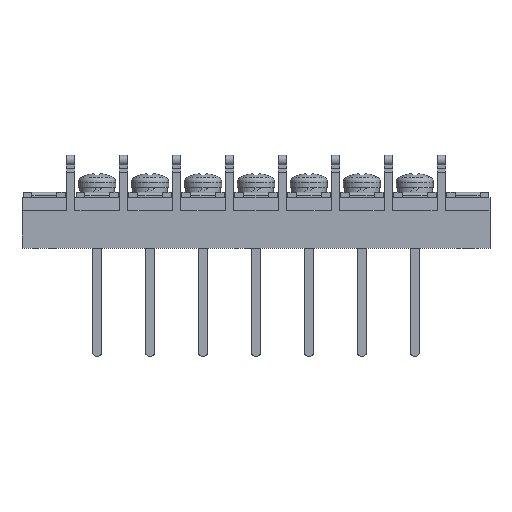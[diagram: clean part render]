
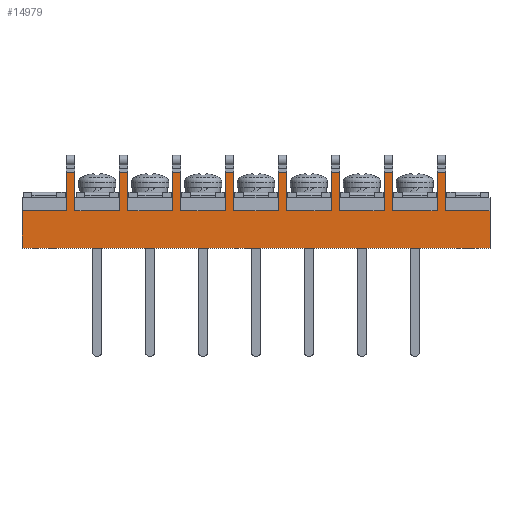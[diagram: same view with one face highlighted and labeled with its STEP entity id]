
A CAD part, top view. The second image highlights one B-rep face of the part: STEP entity #14979.
In plain terms, the highlighted planar face has unit normal (0, 0, 1).
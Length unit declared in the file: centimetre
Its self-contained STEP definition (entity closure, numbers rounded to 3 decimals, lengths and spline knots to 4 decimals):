
#688=VECTOR('',#16646,1.);
#719=VECTOR('',#16682,1.);
#770=VECTOR('',#16749,1.);
#771=VECTOR('',#16751,1.);
#772=VECTOR('',#16752,1.);
#773=VECTOR('',#16753,1.);
#774=VECTOR('',#16754,1.);
#775=VECTOR('',#16755,1.);
#776=VECTOR('',#16756,1.);
#777=VECTOR('',#16757,1.);
#778=VECTOR('',#16758,1.);
#779=VECTOR('',#16759,1.);
#780=VECTOR('',#16760,1.);
#781=VECTOR('',#16761,1.);
#782=VECTOR('',#16762,1.);
#783=VECTOR('',#16763,1.);
#784=VECTOR('',#16764,1.);
#785=VECTOR('',#16765,1.);
#786=VECTOR('',#16766,1.);
#787=VECTOR('',#16767,1.);
#788=VECTOR('',#16768,1.);
#789=VECTOR('',#16769,1.);
#790=VECTOR('',#16770,1.);
#791=VECTOR('',#16771,1.);
#792=VECTOR('',#16772,1.);
#793=VECTOR('',#16773,1.);
#794=VECTOR('',#16774,1.);
#795=VECTOR('',#16775,1.);
#796=VECTOR('',#16776,1.);
#797=VECTOR('',#16777,1.);
#798=VECTOR('',#16778,1.);
#799=VECTOR('',#16779,1.);
#800=VECTOR('',#16780,1.);
#801=VECTOR('',#16781,1.);
#802=VECTOR('',#16782,1.);
#803=VECTOR('',#16783,1.);
#2428=LINE('',#20002,#688);
#2459=LINE('',#20069,#719);
#2510=LINE('',#20174,#770);
#2511=LINE('',#20176,#771);
#2512=LINE('',#20178,#772);
#2513=LINE('',#20180,#773);
#2514=LINE('',#20182,#774);
#2515=LINE('',#20184,#775);
#2516=LINE('',#20186,#776);
#2517=LINE('',#20188,#777);
#2518=LINE('',#20190,#778);
#2519=LINE('',#20192,#779);
#2520=LINE('',#20194,#780);
#2521=LINE('',#20196,#781);
#2522=LINE('',#20198,#782);
#2523=LINE('',#20200,#783);
#2524=LINE('',#20202,#784);
#2525=LINE('',#20204,#785);
#2526=LINE('',#20206,#786);
#2527=LINE('',#20208,#787);
#2528=LINE('',#20210,#788);
#2529=LINE('',#20212,#789);
#2530=LINE('',#20214,#790);
#2531=LINE('',#20216,#791);
#2532=LINE('',#20218,#792);
#2533=LINE('',#20220,#793);
#2534=LINE('',#20222,#794);
#2535=LINE('',#20224,#795);
#2536=LINE('',#20226,#796);
#2537=LINE('',#20227,#797);
#2538=LINE('',#20229,#798);
#2539=LINE('',#20231,#799);
#2540=LINE('',#20233,#800);
#2541=LINE('',#20235,#801);
#2542=LINE('',#20237,#802);
#2543=LINE('',#20239,#803);
#4220=VERTEX_POINT('',#20001);
#4221=VERTEX_POINT('',#20003);
#4253=VERTEX_POINT('',#20068);
#4254=VERTEX_POINT('',#20070);
#4295=VERTEX_POINT('',#20173);
#4296=VERTEX_POINT('',#20177);
#4297=VERTEX_POINT('',#20179);
#4298=VERTEX_POINT('',#20181);
#4299=VERTEX_POINT('',#20183);
#4300=VERTEX_POINT('',#20185);
#4301=VERTEX_POINT('',#20187);
#4302=VERTEX_POINT('',#20189);
#4303=VERTEX_POINT('',#20191);
#4304=VERTEX_POINT('',#20193);
#4305=VERTEX_POINT('',#20195);
#4306=VERTEX_POINT('',#20197);
#4307=VERTEX_POINT('',#20199);
#4308=VERTEX_POINT('',#20201);
#4309=VERTEX_POINT('',#20203);
#4310=VERTEX_POINT('',#20205);
#4311=VERTEX_POINT('',#20207);
#4312=VERTEX_POINT('',#20209);
#4313=VERTEX_POINT('',#20211);
#4314=VERTEX_POINT('',#20213);
#4315=VERTEX_POINT('',#20215);
#4316=VERTEX_POINT('',#20217);
#4317=VERTEX_POINT('',#20219);
#4318=VERTEX_POINT('',#20221);
#4319=VERTEX_POINT('',#20223);
#4320=VERTEX_POINT('',#20225);
#4321=VERTEX_POINT('',#20228);
#4322=VERTEX_POINT('',#20230);
#4323=VERTEX_POINT('',#20232);
#4324=VERTEX_POINT('',#20234);
#4325=VERTEX_POINT('',#20236);
#4326=VERTEX_POINT('',#20238);
#6079=EDGE_CURVE('',#4221,#4220,#2428,.T.);
#6112=EDGE_CURVE('',#4254,#4253,#2459,.T.);
#6165=EDGE_CURVE('',#4295,#4220,#2510,.T.);
#6166=EDGE_CURVE('',#4253,#4296,#2511,.T.);
#6167=EDGE_CURVE('',#4297,#4296,#2512,.T.);
#6168=EDGE_CURVE('',#4297,#4298,#2513,.T.);
#6169=EDGE_CURVE('',#4299,#4298,#2514,.T.);
#6170=EDGE_CURVE('',#4299,#4300,#2515,.T.);
#6171=EDGE_CURVE('',#4301,#4300,#2516,.T.);
#6172=EDGE_CURVE('',#4301,#4302,#2517,.T.);
#6173=EDGE_CURVE('',#4303,#4302,#2518,.T.);
#6174=EDGE_CURVE('',#4303,#4304,#2519,.T.);
#6175=EDGE_CURVE('',#4305,#4304,#2520,.T.);
#6176=EDGE_CURVE('',#4305,#4306,#2521,.T.);
#6177=EDGE_CURVE('',#4307,#4306,#2522,.T.);
#6178=EDGE_CURVE('',#4307,#4308,#2523,.T.);
#6179=EDGE_CURVE('',#4309,#4308,#2524,.T.);
#6180=EDGE_CURVE('',#4309,#4310,#2525,.T.);
#6181=EDGE_CURVE('',#4311,#4310,#2526,.T.);
#6182=EDGE_CURVE('',#4311,#4312,#2527,.T.);
#6183=EDGE_CURVE('',#4313,#4312,#2528,.T.);
#6184=EDGE_CURVE('',#4313,#4314,#2529,.T.);
#6185=EDGE_CURVE('',#4315,#4314,#2530,.T.);
#6186=EDGE_CURVE('',#4315,#4316,#2531,.T.);
#6187=EDGE_CURVE('',#4317,#4316,#2532,.T.);
#6188=EDGE_CURVE('',#4317,#4318,#2533,.T.);
#6189=EDGE_CURVE('',#4319,#4318,#2534,.T.);
#6190=EDGE_CURVE('',#4319,#4320,#2535,.T.);
#6191=EDGE_CURVE('',#4221,#4320,#2536,.T.);
#6192=EDGE_CURVE('',#4295,#4321,#2537,.T.);
#6193=EDGE_CURVE('',#4322,#4321,#2538,.T.);
#6194=EDGE_CURVE('',#4322,#4323,#2539,.T.);
#6195=EDGE_CURVE('',#4324,#4323,#2540,.T.);
#6196=EDGE_CURVE('',#4324,#4325,#2541,.T.);
#6197=EDGE_CURVE('',#4326,#4325,#2542,.T.);
#6198=EDGE_CURVE('',#4326,#4254,#2543,.T.);
#8580=ORIENTED_EDGE('',*,*,#6112,.T.);
#8581=ORIENTED_EDGE('',*,*,#6166,.T.);
#8582=ORIENTED_EDGE('',*,*,#6167,.F.);
#8583=ORIENTED_EDGE('',*,*,#6168,.T.);
#8584=ORIENTED_EDGE('',*,*,#6169,.F.);
#8585=ORIENTED_EDGE('',*,*,#6170,.T.);
#8586=ORIENTED_EDGE('',*,*,#6171,.F.);
#8587=ORIENTED_EDGE('',*,*,#6172,.T.);
#8588=ORIENTED_EDGE('',*,*,#6173,.F.);
#8589=ORIENTED_EDGE('',*,*,#6174,.T.);
#8590=ORIENTED_EDGE('',*,*,#6175,.F.);
#8591=ORIENTED_EDGE('',*,*,#6176,.T.);
#8592=ORIENTED_EDGE('',*,*,#6177,.F.);
#8593=ORIENTED_EDGE('',*,*,#6178,.T.);
#8594=ORIENTED_EDGE('',*,*,#6179,.F.);
#8595=ORIENTED_EDGE('',*,*,#6180,.T.);
#8596=ORIENTED_EDGE('',*,*,#6181,.F.);
#8597=ORIENTED_EDGE('',*,*,#6182,.T.);
#8598=ORIENTED_EDGE('',*,*,#6183,.F.);
#8599=ORIENTED_EDGE('',*,*,#6184,.T.);
#8600=ORIENTED_EDGE('',*,*,#6185,.F.);
#8601=ORIENTED_EDGE('',*,*,#6186,.T.);
#8602=ORIENTED_EDGE('',*,*,#6187,.F.);
#8603=ORIENTED_EDGE('',*,*,#6188,.T.);
#8604=ORIENTED_EDGE('',*,*,#6189,.F.);
#8605=ORIENTED_EDGE('',*,*,#6190,.T.);
#8606=ORIENTED_EDGE('',*,*,#6191,.F.);
#8607=ORIENTED_EDGE('',*,*,#6079,.T.);
#8608=ORIENTED_EDGE('',*,*,#6165,.F.);
#8609=ORIENTED_EDGE('',*,*,#6192,.T.);
#8610=ORIENTED_EDGE('',*,*,#6193,.F.);
#8611=ORIENTED_EDGE('',*,*,#6194,.T.);
#8612=ORIENTED_EDGE('',*,*,#6195,.F.);
#8613=ORIENTED_EDGE('',*,*,#6196,.T.);
#8614=ORIENTED_EDGE('',*,*,#6197,.F.);
#8615=ORIENTED_EDGE('',*,*,#6198,.T.);
#13024=EDGE_LOOP('',(#8580,#8581,#8582,#8583,#8584,#8585,#8586,#8587,#8588,
#8589,#8590,#8591,#8592,#8593,#8594,#8595,#8596,#8597,#8598,#8599,#8600,
#8601,#8602,#8603,#8604,#8605,#8606,#8607,#8608,#8609,#8610,#8611,#8612,
#8613,#8614,#8615));
#14008=FACE_BOUND('',#13024,.T.);
#14979=ADVANCED_FACE('',(#14008),#15851,.T.);
#15851=PLANE('',#25777);
#16646=DIRECTION('',(0.,1.,0.));
#16682=DIRECTION('',(1.,0.,0.));
#16749=DIRECTION('',(1.,0.,0.));
#16750=DIRECTION('',(0.,0.,1.));
#16751=DIRECTION('',(0.,1.,0.));
#16752=DIRECTION('',(1.,0.,0.));
#16753=DIRECTION('',(0.,1.,0.));
#16754=DIRECTION('',(1.,0.,0.));
#16755=DIRECTION('',(0.,-1.,0.));
#16756=DIRECTION('',(1.,0.,0.));
#16757=DIRECTION('',(0.,1.,0.));
#16758=DIRECTION('',(1.,0.,0.));
#16759=DIRECTION('',(0.,-1.,0.));
#16760=DIRECTION('',(1.,0.,0.));
#16761=DIRECTION('',(0.,1.,0.));
#16762=DIRECTION('',(1.,0.,0.));
#16763=DIRECTION('',(0.,-1.,0.));
#16764=DIRECTION('',(1.,0.,0.));
#16765=DIRECTION('',(0.,1.,0.));
#16766=DIRECTION('',(1.,0.,0.));
#16767=DIRECTION('',(0.,-1.,0.));
#16768=DIRECTION('',(1.,0.,0.));
#16769=DIRECTION('',(0.,1.,0.));
#16770=DIRECTION('',(1.,0.,0.));
#16771=DIRECTION('',(0.,-1.,0.));
#16772=DIRECTION('',(1.,0.,0.));
#16773=DIRECTION('',(0.,1.,0.));
#16774=DIRECTION('',(1.,0.,0.));
#16775=DIRECTION('',(0.,-1.,0.));
#16776=DIRECTION('',(1.,0.,0.));
#16777=DIRECTION('',(0.,-1.,0.));
#16778=DIRECTION('',(1.,0.,0.));
#16779=DIRECTION('',(0.,1.,0.));
#16780=DIRECTION('',(1.,0.,0.));
#16781=DIRECTION('',(0.,-1.,0.));
#16782=DIRECTION('',(1.,0.,0.));
#16783=DIRECTION('',(0.,-1.,0.));
#20001=CARTESIAN_POINT('',(0.16,1.42,0.65));
#20002=CARTESIAN_POINT('',(0.16,1.42,0.65));
#20003=CARTESIAN_POINT('',(0.16,0.7,0.65));
#20068=CARTESIAN_POINT('',(7.,0.,0.65));
#20069=CARTESIAN_POINT('',(0.,0.,0.65));
#20070=CARTESIAN_POINT('',(-1.84,0.,0.65));
#20173=CARTESIAN_POINT('',(0.,1.42,0.65));
#20174=CARTESIAN_POINT('',(0.,1.42,0.65));
#20175=CARTESIAN_POINT('',(0.,0.71,0.65));
#20176=CARTESIAN_POINT('',(7.,0.7,0.65));
#20177=CARTESIAN_POINT('',(7.,0.7,0.65));
#20178=CARTESIAN_POINT('',(6.16,0.7,0.65));
#20179=CARTESIAN_POINT('',(6.16,0.7,0.65));
#20180=CARTESIAN_POINT('',(6.16,1.42,0.65));
#20181=CARTESIAN_POINT('',(6.16,1.42,0.65));
#20182=CARTESIAN_POINT('',(6.,1.42,0.65));
#20183=CARTESIAN_POINT('',(6.,1.42,0.65));
#20184=CARTESIAN_POINT('',(6.,1.42,0.65));
#20185=CARTESIAN_POINT('',(6.,0.7,0.65));
#20186=CARTESIAN_POINT('',(5.16,0.7,0.65));
#20187=CARTESIAN_POINT('',(5.16,0.7,0.65));
#20188=CARTESIAN_POINT('',(5.16,1.42,0.65));
#20189=CARTESIAN_POINT('',(5.16,1.42,0.65));
#20190=CARTESIAN_POINT('',(5.,1.42,0.65));
#20191=CARTESIAN_POINT('',(5.,1.42,0.65));
#20192=CARTESIAN_POINT('',(5.,1.42,0.65));
#20193=CARTESIAN_POINT('',(5.,0.7,0.65));
#20194=CARTESIAN_POINT('',(4.16,0.7,0.65));
#20195=CARTESIAN_POINT('',(4.16,0.7,0.65));
#20196=CARTESIAN_POINT('',(4.16,1.42,0.65));
#20197=CARTESIAN_POINT('',(4.16,1.42,0.65));
#20198=CARTESIAN_POINT('',(4.,1.42,0.65));
#20199=CARTESIAN_POINT('',(4.,1.42,0.65));
#20200=CARTESIAN_POINT('',(4.,1.42,0.65));
#20201=CARTESIAN_POINT('',(4.,0.7,0.65));
#20202=CARTESIAN_POINT('',(3.16,0.7,0.65));
#20203=CARTESIAN_POINT('',(3.16,0.7,0.65));
#20204=CARTESIAN_POINT('',(3.16,1.42,0.65));
#20205=CARTESIAN_POINT('',(3.16,1.42,0.65));
#20206=CARTESIAN_POINT('',(3.,1.42,0.65));
#20207=CARTESIAN_POINT('',(3.,1.42,0.65));
#20208=CARTESIAN_POINT('',(3.,1.42,0.65));
#20209=CARTESIAN_POINT('',(3.,0.7,0.65));
#20210=CARTESIAN_POINT('',(2.16,0.7,0.65));
#20211=CARTESIAN_POINT('',(2.16,0.7,0.65));
#20212=CARTESIAN_POINT('',(2.16,1.42,0.65));
#20213=CARTESIAN_POINT('',(2.16,1.42,0.65));
#20214=CARTESIAN_POINT('',(2.,1.42,0.65));
#20215=CARTESIAN_POINT('',(2.,1.42,0.65));
#20216=CARTESIAN_POINT('',(2.,1.42,0.65));
#20217=CARTESIAN_POINT('',(2.,0.7,0.65));
#20218=CARTESIAN_POINT('',(1.16,0.7,0.65));
#20219=CARTESIAN_POINT('',(1.16,0.7,0.65));
#20220=CARTESIAN_POINT('',(1.16,1.42,0.65));
#20221=CARTESIAN_POINT('',(1.16,1.42,0.65));
#20222=CARTESIAN_POINT('',(1.,1.42,0.65));
#20223=CARTESIAN_POINT('',(1.,1.42,0.65));
#20224=CARTESIAN_POINT('',(1.,1.42,0.65));
#20225=CARTESIAN_POINT('',(1.,0.7,0.65));
#20226=CARTESIAN_POINT('',(0.16,0.7,0.65));
#20227=CARTESIAN_POINT('',(0.,1.42,0.65));
#20228=CARTESIAN_POINT('',(0.,0.7,0.65));
#20229=CARTESIAN_POINT('',(-0.84,0.7,0.65));
#20230=CARTESIAN_POINT('',(-0.84,0.7,0.65));
#20231=CARTESIAN_POINT('',(-0.84,1.42,0.65));
#20232=CARTESIAN_POINT('',(-0.84,1.42,0.65));
#20233=CARTESIAN_POINT('',(-1.,1.42,0.65));
#20234=CARTESIAN_POINT('',(-1.,1.42,0.65));
#20235=CARTESIAN_POINT('',(-1.,1.42,0.65));
#20236=CARTESIAN_POINT('',(-1.,0.7,0.65));
#20237=CARTESIAN_POINT('',(-1.84,0.7,0.65));
#20238=CARTESIAN_POINT('',(-1.84,0.7,0.65));
#20239=CARTESIAN_POINT('',(-1.84,0.7,0.65));
#25777=AXIS2_PLACEMENT_3D('',#20175,#16750,$);
